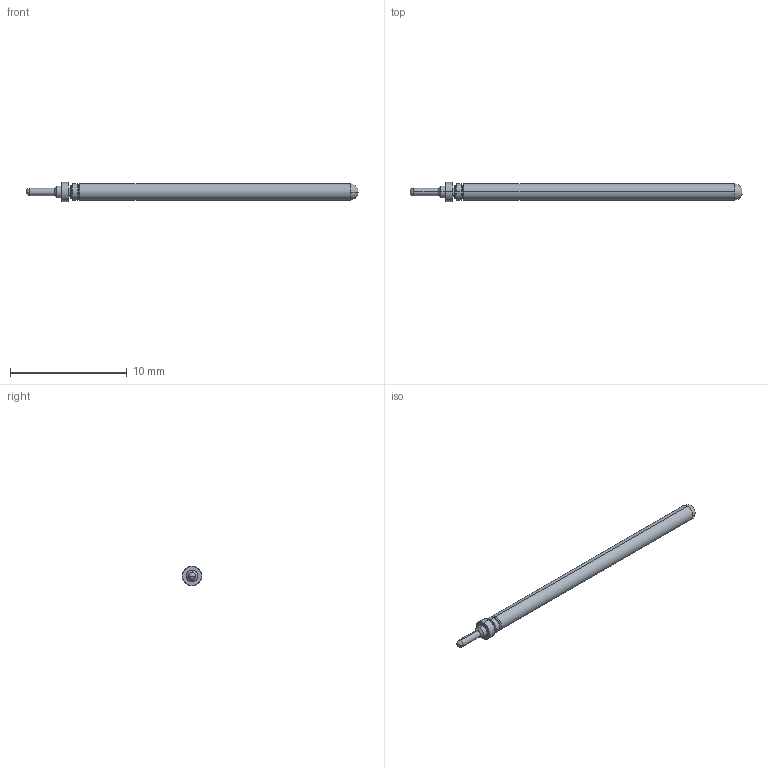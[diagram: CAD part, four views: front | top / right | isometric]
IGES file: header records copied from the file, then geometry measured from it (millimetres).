
Start section: SolidWorks IGES file using analytic representation for surfaces
Global section: file name: Z:\probe solid model mockups\Solidworks models\LTP-25\LTP-25TJ Full.IGS; native system: SolidWorks 2006 by SolidWorks Corporation; preprocessor: SolidWorks 2006 by SolidWorks Corporation; author: tsakatani; date: 071214.143517; units: inch
Bounding box: 28.45 x 1.65 x 1.65 mm (x, y, z)
Surface area: 120.5 mm2 (no closed solid volume)
Topology: 0 solids, 0 shells, 30 faces, 224 edges, 222 vertices
Faces by surface type: revolution 22, bspline 8
